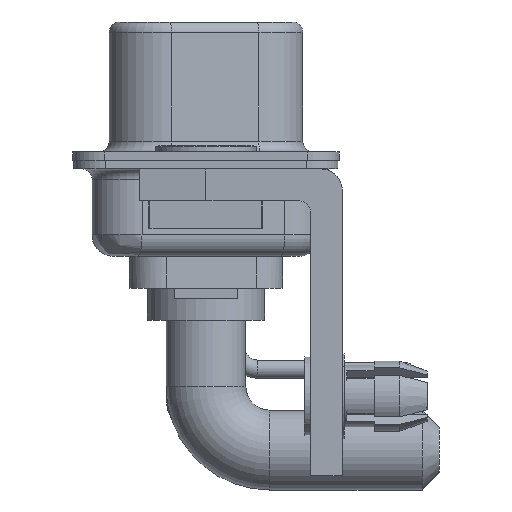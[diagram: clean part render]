
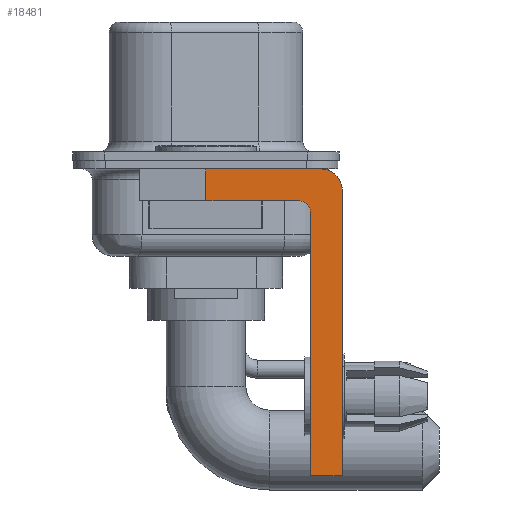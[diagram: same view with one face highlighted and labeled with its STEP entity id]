
A CAD part, left-side view. The second image highlights one B-rep face of the part: STEP entity #18481.
In plain terms, the highlighted planar face has unit normal (-1, 0, 0).
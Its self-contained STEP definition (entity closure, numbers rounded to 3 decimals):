
#210 = VECTOR ( 'NONE', #41243, 1000. ) ;
#1314 = VECTOR ( 'NONE', #40108, 1000. ) ;
#2147 = CARTESIAN_POINT ( 'NONE',  ( -26.525, -4.4, 0.6 ) ) ;
#4561 = CARTESIAN_POINT ( 'NONE',  ( -26.525, 0., 2.1 ) ) ;
#4565 = DIRECTION ( 'NONE',  ( -1., 0., 0. ) ) ;
#5509 = VECTOR ( 'NONE', #37681, 1000. ) ;
#5594 = EDGE_CURVE ( 'NONE', #19652, #6582, #37729, .T. ) ;
#5984 = CARTESIAN_POINT ( 'NONE',  ( -26.525, -6.4, -12.3 ) ) ;
#6256 = DIRECTION ( 'NONE',  ( 0., 0., -1. ) ) ;
#6582 = VERTEX_POINT ( 'NONE', #13525 ) ;
#6977 = VERTEX_POINT ( 'NONE', #38572 ) ;
#9549 = ORIENTED_EDGE ( 'NONE', *, *, #21210, .T. ) ;
#9815 = CARTESIAN_POINT ( 'NONE',  ( -26.525, -5.4, 2.1 ) ) ;
#10347 = EDGE_CURVE ( 'NONE', #24049, #32913, #22071, .T. ) ;
#11705 = VERTEX_POINT ( 'NONE', #2147 ) ;
#12136 = ORIENTED_EDGE ( 'NONE', *, *, #5594, .T. ) ;
#12961 = VECTOR ( 'NONE', #41106, 1000. ) ;
#13266 = DIRECTION ( 'NONE',  ( -1., 0., 0. ) ) ;
#13500 = ORIENTED_EDGE ( 'NONE', *, *, #33225, .F. ) ;
#13525 = CARTESIAN_POINT ( 'NONE',  ( -26.525, -4.9, -12.3 ) ) ;
#15657 = DIRECTION ( 'NONE',  ( 0., 1., 0. ) ) ;
#16007 = CARTESIAN_POINT ( 'NONE',  ( -26.525, -5.4, 1.1 ) ) ;
#16980 = FACE_OUTER_BOUND ( 'NONE', #19087, .T. ) ;
#18254 = VERTEX_POINT ( 'NONE', #30917 ) ;
#18481 = ADVANCED_FACE ( 'NONE', ( #16980 ), #39528, .T. ) ;
#19086 = DIRECTION ( 'NONE',  ( 1., 0., 0. ) ) ;
#19087 = EDGE_LOOP ( 'NONE', ( #23374, #29162, #38625, #9549, #12136, #13500, #41104, #40776 ) ) ;
#19180 = DIRECTION ( 'NONE',  ( 0., -1., 0. ) ) ;
#19532 = VERTEX_POINT ( 'NONE', #35135 ) ;
#19652 = VERTEX_POINT ( 'NONE', #33427 ) ;
#20264 = EDGE_CURVE ( 'NONE', #6977, #32913, #29041, .T. ) ;
#20346 = CARTESIAN_POINT ( 'NONE',  ( -26.525, 3.1, 2.1 ) ) ;
#20715 = LINE ( 'NONE', #36536, #1314 ) ;
#21210 = EDGE_CURVE ( 'NONE', #11705, #19652, #29143, .T. ) ;
#21843 = DIRECTION ( 'NONE',  ( 0., 0., 1. ) ) ;
#22071 = LINE ( 'NONE', #41476, #5509 ) ;
#22451 = CARTESIAN_POINT ( 'NONE',  ( -26.525, -4.4, 0.1 ) ) ;
#23374 = ORIENTED_EDGE ( 'NONE', *, *, #10347, .F. ) ;
#23618 = CARTESIAN_POINT ( 'NONE',  ( -26.525, 0., 2.1 ) ) ;
#23671 = AXIS2_PLACEMENT_3D ( 'NONE', #16007, #13266, #19180 ) ;
#23770 = AXIS2_PLACEMENT_3D ( 'NONE', #22451, #19086, #21843 ) ;
#24049 = VERTEX_POINT ( 'NONE', #4561 ) ;
#24804 = AXIS2_PLACEMENT_3D ( 'NONE', #20346, #4565, #26856 ) ;
#25740 = EDGE_CURVE ( 'NONE', #6977, #18254, #20715, .T. ) ;
#26856 = DIRECTION ( 'NONE',  ( 0., -1., 0. ) ) ;
#26895 = VECTOR ( 'NONE', #15657, 1000. ) ;
#28034 = EDGE_CURVE ( 'NONE', #19532, #11705, #40395, .T. ) ;
#28232 = CARTESIAN_POINT ( 'NONE',  ( -26.525, -4.9, 0.1 ) ) ;
#29041 = CIRCLE ( 'NONE', #23671, 1. ) ;
#29143 = CIRCLE ( 'NONE', #23770, 0.5 ) ;
#29162 = ORIENTED_EDGE ( 'NONE', *, *, #38567, .T. ) ;
#30416 = VECTOR ( 'NONE', #6256, 1000. ) ;
#30917 = CARTESIAN_POINT ( 'NONE',  ( -26.525, -6.4, -12.3 ) ) ;
#32913 = VERTEX_POINT ( 'NONE', #9815 ) ;
#33225 = EDGE_CURVE ( 'NONE', #18254, #6582, #34847, .T. ) ;
#33427 = CARTESIAN_POINT ( 'NONE',  ( -26.525, -4.9, 0.1 ) ) ;
#34281 = CARTESIAN_POINT ( 'NONE',  ( -26.525, 0., 0.6 ) ) ;
#34847 = LINE ( 'NONE', #5984, #26895 ) ;
#35135 = CARTESIAN_POINT ( 'NONE',  ( -26.525, 0., 0.6 ) ) ;
#36536 = CARTESIAN_POINT ( 'NONE',  ( -26.525, -6.4, 1.1 ) ) ;
#37681 = DIRECTION ( 'NONE',  ( 0., -1., 0. ) ) ;
#37729 = LINE ( 'NONE', #28232, #12961 ) ;
#38567 = EDGE_CURVE ( 'NONE', #24049, #19532, #39662, .T. ) ;
#38572 = CARTESIAN_POINT ( 'NONE',  ( -26.525, -6.4, 1.1 ) ) ;
#38625 = ORIENTED_EDGE ( 'NONE', *, *, #28034, .T. ) ;
#39528 = PLANE ( 'NONE',  #24804 ) ;
#39662 = LINE ( 'NONE', #23618, #30416 ) ;
#40108 = DIRECTION ( 'NONE',  ( 0., 0., -1. ) ) ;
#40395 = LINE ( 'NONE', #34281, #210 ) ;
#40776 = ORIENTED_EDGE ( 'NONE', *, *, #20264, .T. ) ;
#41104 = ORIENTED_EDGE ( 'NONE', *, *, #25740, .F. ) ;
#41106 = DIRECTION ( 'NONE',  ( 0., 0., -1. ) ) ;
#41243 = DIRECTION ( 'NONE',  ( 0., -1., 0. ) ) ;
#41476 = CARTESIAN_POINT ( 'NONE',  ( -26.525, 0., 2.1 ) ) ;
